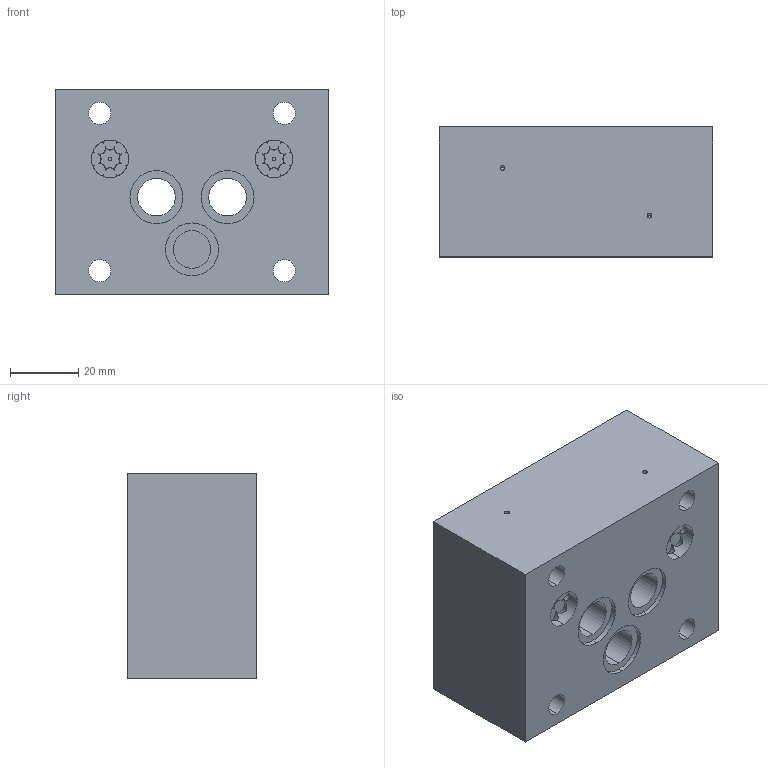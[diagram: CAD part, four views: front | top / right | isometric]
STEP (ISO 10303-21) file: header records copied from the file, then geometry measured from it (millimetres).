
FILE_DESCRIPTION (( 'STEP AP214' ), '1' );
FILE_NAME ('ARVPT10.STEP', '2017-04-11T09:35:31', ( '' ), ( '' ), 'SwSTEP 2.0', 'SolidWorks 2016', '' );
FILE_SCHEMA (( 'AUTOMOTIVE_DESIGN' ));
Length unit declared in the file: millimetre
Products named in the file (1): ARVPT10
Bounding box: 80 x 38 x 60 mm (x, y, z)
Volume: 164855.8 mm3; surface area: 28731.5 mm2
Topology: 1 solids, 4 shells, 249 faces, 628 edges, 406 vertices
Faces by surface type: cylinder 136, plane 57, torus 36, cone 20
Entity records: 10870 total; most frequent: CARTESIAN_POINT 2846, ORIENTED_EDGE 1248, DIRECTION 1040, EDGE_CURVE 624, AXIS2_PLACEMENT_3D 460, VERTEX_POINT 406, EDGE_LOOP 290, ADVANCED_FACE 249
